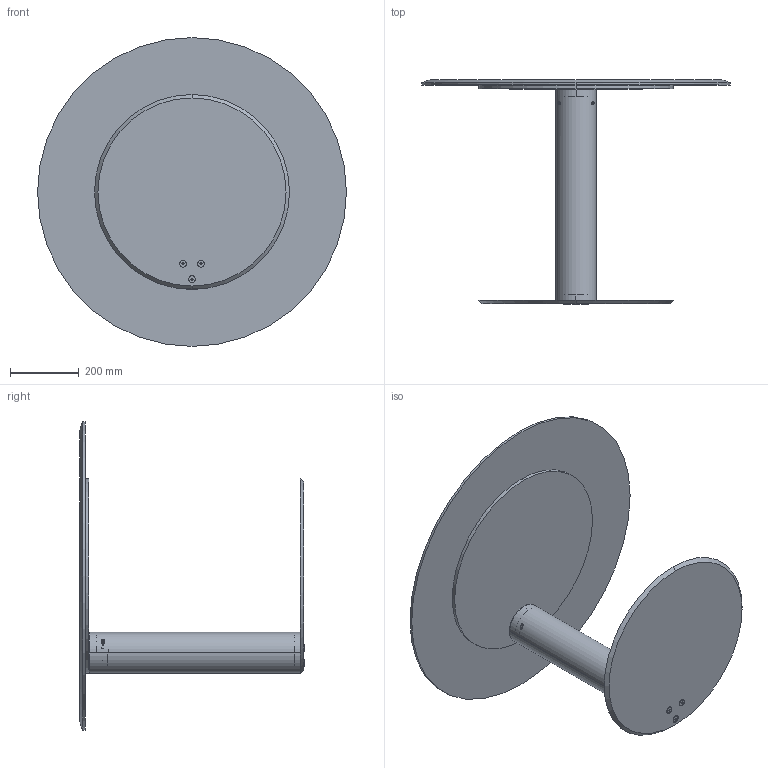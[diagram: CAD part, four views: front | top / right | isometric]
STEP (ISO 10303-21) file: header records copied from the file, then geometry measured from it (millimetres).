
FILE_DESCRIPTION (( 'STEP AP214' ), '1' );
FILE_NAME ('Ø90_LOUNGE.STEP', '2026-04-02T06:49:54', ( '' ), ( '' ), 'SwSTEP 2.0', 'SolidWorks 2025', '' );
FILE_SCHEMA (( 'AUTOMOTIVE_DESIGN' ));
Length unit declared in the file: millimetre
Products named in the file (12): piano_Ø90; OTO_blocchetto FE da saldare; OTO_colonnaØ120_colonna LOUNGE; OTO_piastra inferiore svasata_Ø568mm; OTO_anello piastra sup; OTO_anello fissaggio piastra sup; OTO_piastra superiore_Ø568mm; Ø90_LOUNGE; socket countersunk head screw_am_B18.3.5M - 8 x 1.25 x 25 Socket FCHS  -- 25C; socket countersunk head screw_am_B18.3.5M - 10 x 1.5 x 40 Socket FCHS  -- 40N; OTO_colonna interna Ø80_colonna interna_LOUNGE; socket head cap screw_am_B18.3.1M - 8 x 1.25 x 16 Hex SHCS -- 16NHX
Assembly tree (17 placements, depth 2):
  Ø90_LOUNGE
    OTO_colonna interna Ø80_colonna interna_LOUNGE
    OTO_blocchetto FE da saldare
    OTO_colonnaØ120_colonna LOUNGE
    OTO_anello fissaggio piastra sup
    OTO_anello piastra sup
    OTO_piastra inferiore svasata_Ø568mm
    OTO_piastra superiore_Ø568mm
    socket countersunk head screw_am_B18.3.5M - 8 x 1.25 x 25 Socket FCHS  -- 25C  x4
    piano_Ø90
    socket countersunk head screw_am_B18.3.5M - 10 x 1.5 x 40 Socket FCHS  -- 40N  x3
    socket head cap screw_am_B18.3.1M - 8 x 1.25 x 16 Hex SHCS -- 16NHX  x2
Bounding box: 900 x 653.2 x 900 mm (x, y, z)
Volume: 15707018.4 mm3; surface area: 3191989.2 mm2
Topology: 17 solids, 17 shells, 374 faces, 823 edges, 473 vertices
Faces by surface type: plane 152, cylinder 102, cone 102, torus 18
Entity records: 6856 total; most frequent: CARTESIAN_POINT 1481, DIRECTION 1157, ORIENTED_EDGE 938, EDGE_CURVE 469, AXIS2_PLACEMENT_3D 463, VERTEX_POINT 285, EDGE_LOOP 264, LINE 231
